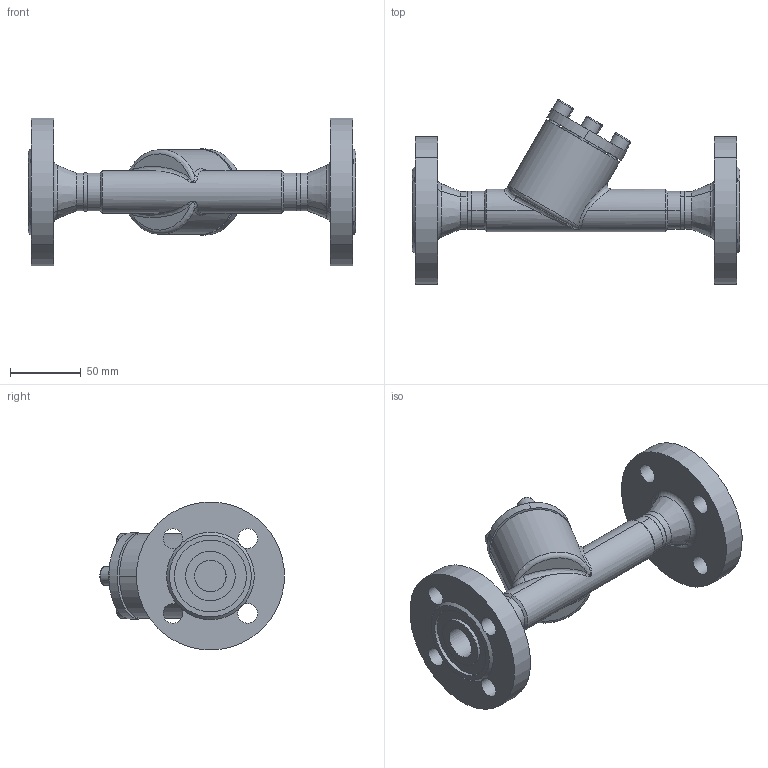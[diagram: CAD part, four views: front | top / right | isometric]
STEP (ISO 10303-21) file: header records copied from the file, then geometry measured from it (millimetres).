
FILE_DESCRIPTION (( 'STEP AP214' ), '1' );
FILE_NAME ('SS52320D11-DN020_DIN-FL-N_PS40.STEP', '2006-05-02T05:46:39', ( 'Herr Grams' ), ( 'AWP GmbH' ), 'SwSTEP 2.0', 'SolidWorks 2002296', '' );
FILE_SCHEMA (( 'AUTOMOTIVE_DESIGN' ));
Length unit declared in the file: millimetre
Products named in the file (9): SS52320D11-DN020_DIN-FL-N_PS40; Gehäuse-kpl16320-DN020_DIN_PS40_Standard; Gehäuse16300-DN020_Standard; Flansch-DIN2635-Nut_PS40_DIN-Flansch-DN020_PS40-Nut; bead16320-DN020-1_Standard; bead16320-DN020-2_Standard; SS52300K10_Deck+Schr-DN10-20_Standard; Zylinderschraube-DIN912_M 8x 16; Deckel52300K10-DN10-20_Standard
Assembly tree (12 placements, depth 3):
  SS52320D11-DN020_DIN-FL-N_PS40
    Gehäuse-kpl16320-DN020_DIN_PS40_Standard
      Flansch-DIN2635-Nut_PS40_DIN-Flansch-DN020_PS40-Nut  x2
      Gehäuse16300-DN020_Standard
      bead16320-DN020-1_Standard
      bead16320-DN020-2_Standard
    SS52300K10_Deck+Schr-DN10-20_Standard
      Zylinderschraube-DIN912_M 8x 16  x4
      Deckel52300K10-DN10-20_Standard
Bounding box: 232 x 130.66 x 104.6 mm (x, y, z)
Volume: 481271.2 mm3; surface area: 106780.6 mm2
Topology: 10 solids, 10 shells, 214 faces, 491 edges, 309 vertices
Faces by surface type: cylinder 83, plane 67, cone 36, torus 14, bspline 14
Entity records: 18972 total; most frequent: CARTESIAN_POINT 15467, DIRECTION 644, ORIENTED_EDGE 590, EDGE_CURVE 295, AXIS2_PLACEMENT_3D 274, VERTEX_POINT 185, EDGE_LOOP 156, CIRCLE 143
